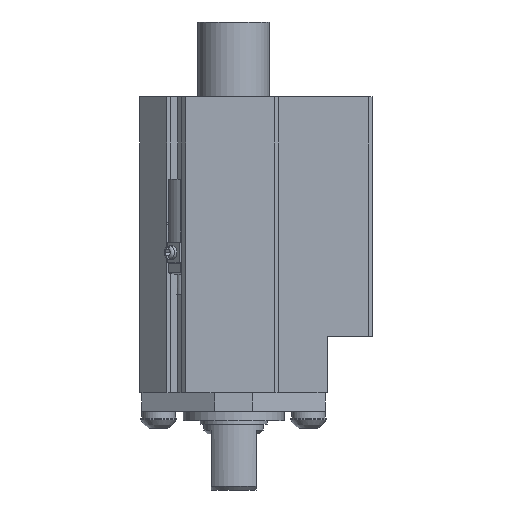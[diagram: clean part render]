
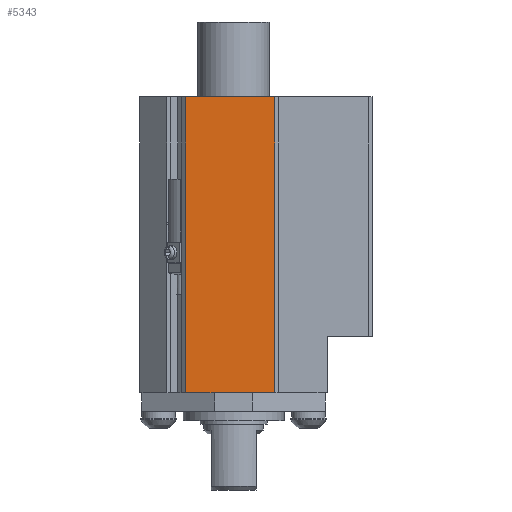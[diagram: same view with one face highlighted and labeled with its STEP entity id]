
A CAD part, front view. The second image highlights one B-rep face of the part: STEP entity #5343.
In plain terms, the highlighted planar face has unit normal (0, -1, 0).
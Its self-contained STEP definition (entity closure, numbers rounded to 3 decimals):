
#408=PLANE('',#6055);
#664=FACE_OUTER_BOUND('',#963,.T.);
#963=EDGE_LOOP('',(#4709,#4710,#4711,#4712));
#1463=LINE('',#9058,#1973);
#1469=LINE('',#9069,#1979);
#1472=LINE('',#9075,#1982);
#1473=LINE('',#9076,#1983);
#1973=VECTOR('',#7375,10.);
#1979=VECTOR('',#7385,10.);
#1982=VECTOR('',#7390,10.);
#1983=VECTOR('',#7391,10.);
#2694=VERTEX_POINT('',#9055);
#2695=VERTEX_POINT('',#9057);
#2698=VERTEX_POINT('',#9068);
#2700=VERTEX_POINT('',#9074);
#3391=EDGE_CURVE('',#2694,#2695,#1463,.T.);
#3397=EDGE_CURVE('',#2695,#2698,#1469,.T.);
#3400=EDGE_CURVE('',#2694,#2700,#1472,.T.);
#3401=EDGE_CURVE('',#2698,#2700,#1473,.T.);
#4709=ORIENTED_EDGE('',*,*,#3397,.F.);
#4710=ORIENTED_EDGE('',*,*,#3391,.F.);
#4711=ORIENTED_EDGE('',*,*,#3400,.T.);
#4712=ORIENTED_EDGE('',*,*,#3401,.F.);
#5343=ADVANCED_FACE('',(#664),#408,.T.);
#6055=AXIS2_PLACEMENT_3D('',#9073,#7388,#7389);
#7375=DIRECTION('',(1.,0.,0.));
#7385=DIRECTION('',(0.,0.,-1.));
#7388=DIRECTION('center_axis',(0.,-1.,0.));
#7389=DIRECTION('ref_axis',(1.,0.,0.));
#7390=DIRECTION('',(0.,0.,-1.));
#7391=DIRECTION('',(-1.,0.,0.));
#9055=CARTESIAN_POINT('',(-12.77,-19.05,79.));
#9057=CARTESIAN_POINT('',(11.,-19.05,79.));
#9058=CARTESIAN_POINT('',(37.,-19.05,79.));
#9068=CARTESIAN_POINT('',(11.,-19.05,0.));
#9069=CARTESIAN_POINT('',(11.,-19.05,0.));
#9073=CARTESIAN_POINT('Origin',(-25.,-19.05,0.));
#9074=CARTESIAN_POINT('',(-12.77,-19.05,0.));
#9075=CARTESIAN_POINT('',(-12.77,-19.05,0.));
#9076=CARTESIAN_POINT('',(37.,-19.05,0.));
